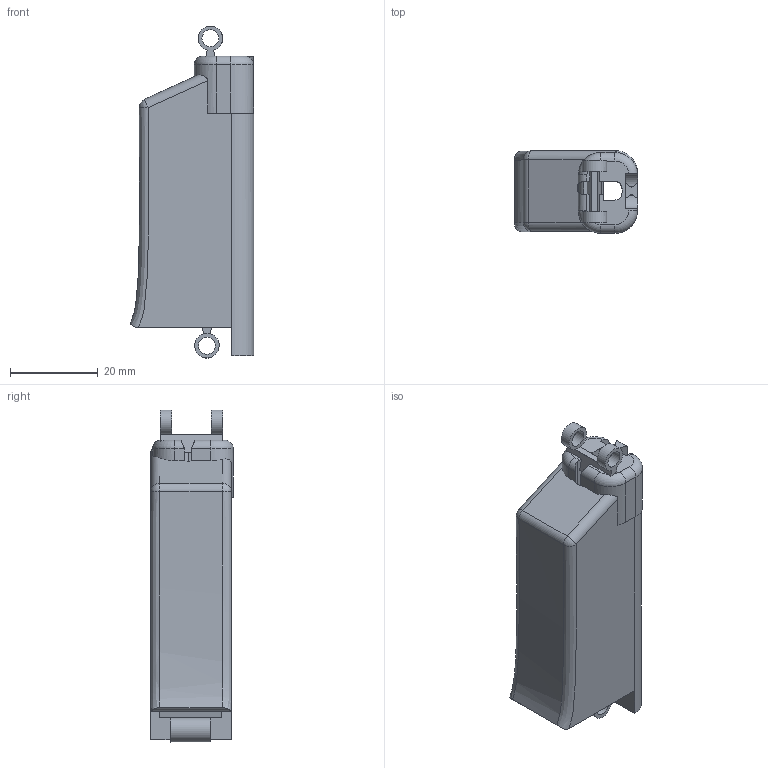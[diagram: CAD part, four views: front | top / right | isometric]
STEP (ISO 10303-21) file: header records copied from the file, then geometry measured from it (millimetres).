
FILE_DESCRIPTION(/* description */ ('STEP AP242 Edition 2','CAx-IF Rec.Pracs.---Representation and Presentation of Product Manufacturing Information (PMI)---4.0---2014-10-13','CAx-IF Rec.Pracs.---3D Tessellated Geometry---0.4---2014-09-14','2;1','CAx-IF Rec.Pracs.---User Defined Attributes---1.5---2016-08-15'),/* implementation_level */ '2;1');
FILE_NAME(/* name */ 'Main - Ring Bih',/* time_stamp */ '2026-06-25T16:15:31Z',/* author */ (''),/* organization */ (''),/* preprocessor_version */ 'ST-DEVELOPER v20',/* originating_system */ 'ONSHAPE BY PTC INC, 1.216',/* authorisation */ ' ');
FILE_SCHEMA (('AP242_MANAGED_MODEL_BASED_3D_ENGINEERING_MIM_LF { 1 0 10303 442 3 1 4 }'));
Length unit declared in the file: metre
Products named in the file (1): Ring Bih
Bounding box: 28.11 x 18.82 x 75.64 mm (x, y, z)
Volume: 25676.2 mm3; surface area: 8260.1 mm2
Topology: 1 solids, 1 shells, 96 faces, 279 edges, 179 vertices
Faces by surface type: plane 54, cylinder 29, torus 6, bspline 3, sphere 2, cone 2
Full cylindrical faces by diameter (mm): 3.865 x3
Entity records: 3336 total; most frequent: CARTESIAN_POINT 780, ORIENTED_EDGE 548, DIRECTION 511, EDGE_CURVE 274, VERTEX_POINT 179, AXIS2_PLACEMENT_3D 171, LINE 169, VECTOR 169
